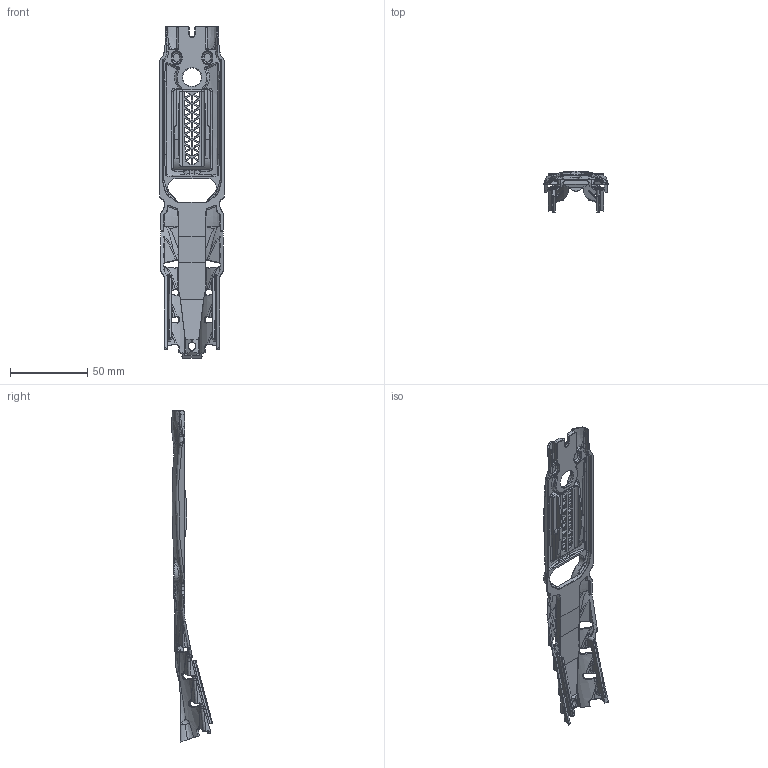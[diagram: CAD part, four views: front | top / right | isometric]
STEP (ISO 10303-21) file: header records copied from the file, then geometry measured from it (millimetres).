
FILE_DESCRIPTION((''),'2;1');
FILE_NAME('UPPER_SHELL','2026-01-22T14:57:04',('james'),(''),'CREO PARAMETRIC BY PTC INC, 2023294','CREO PARAMETRIC BY PTC INC, 2023294','');
FILE_SCHEMA(('CONFIG_CONTROL_DESIGN'));
Products named in the file (1): UPPER_SHELL
Bounding box: 41.95 x 26.58 x 214.63 mm (x, y, z)
Volume: 20214.8 mm3; surface area: 23276.8 mm2
Topology: 1 solids, 1 shells, 1451 faces, 3708 edges, 2235 vertices
Faces by surface type: bspline 672, plane 328, cylinder 231, torus 109, extrusion 52, cone 39, sphere 12, revolution 8
Entity records: 93119 total; most frequent: CARTESIAN_POINT 63587, ORIENTED_EDGE 7416, DIRECTION 4331, EDGE_CURVE 3708, VERTEX_POINT 2235, B_SPLINE_CURVE_WITH_KNOTS 1875, AXIS2_PLACEMENT_3D 1659, EDGE_LOOP 1517
